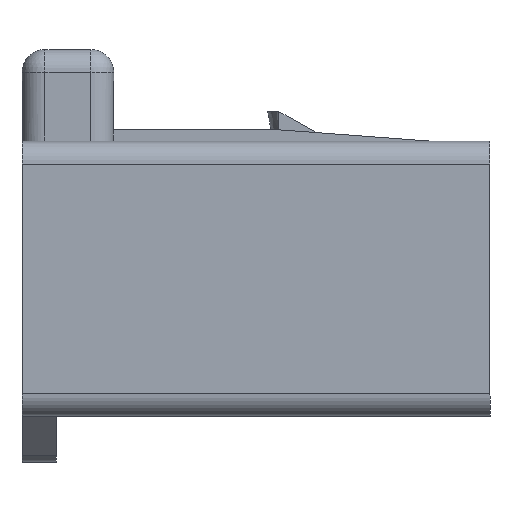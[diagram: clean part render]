
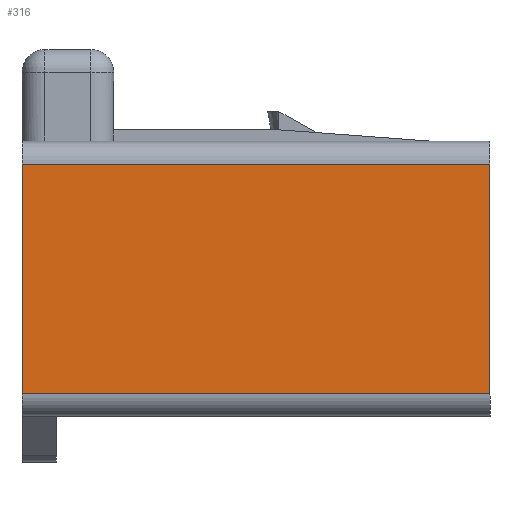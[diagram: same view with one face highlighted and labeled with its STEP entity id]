
A CAD part, front view. The second image highlights one B-rep face of the part: STEP entity #316.
In plain terms, the highlighted planar face has unit normal (0, -1, 0).
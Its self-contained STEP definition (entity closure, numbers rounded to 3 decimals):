
#289=AXIS2_PLACEMENT_3D('Plane Axis2P3D',#286,#287,#288) ;
#256=CARTESIAN_POINT('Vertex',(0.,-2.55,-8.2)) ;
#259=CARTESIAN_POINT('Line Origine',(-10.2,-2.55,-8.2)) ;
#263=CARTESIAN_POINT('Vertex',(-20.4,-2.55,-8.2)) ;
#286=CARTESIAN_POINT('Axis2P3D Location',(0.,-2.55,2.8)) ;
#291=CARTESIAN_POINT('Line Origine',(-20.4,-2.55,-3.2)) ;
#295=CARTESIAN_POINT('Vertex',(-20.4,-2.55,1.8)) ;
#298=CARTESIAN_POINT('Line Origine',(0.,-2.55,-3.2)) ;
#302=CARTESIAN_POINT('Vertex',(0.,-2.55,1.8)) ;
#305=CARTESIAN_POINT('Line Origine',(-10.2,-2.55,1.8)) ;
#260=DIRECTION('Vector Direction',(1.,0.,0.)) ;
#287=DIRECTION('Axis2P3D Direction',(0.,-1.,0.)) ;
#288=DIRECTION('Axis2P3D XDirection',(0.,0.,-1.)) ;
#292=DIRECTION('Vector Direction',(0.,0.,-1.)) ;
#299=DIRECTION('Vector Direction',(0.,0.,-1.)) ;
#306=DIRECTION('Vector Direction',(1.,0.,0.)) ;
#261=VECTOR('Line Direction',#260,1.) ;
#293=VECTOR('Line Direction',#292,1.) ;
#300=VECTOR('Line Direction',#299,1.) ;
#307=VECTOR('Line Direction',#306,1.) ;
#311=ORIENTED_EDGE('',*,*,#297,.T.) ;
#312=ORIENTED_EDGE('',*,*,#265,.T.) ;
#313=ORIENTED_EDGE('',*,*,#304,.F.) ;
#314=ORIENTED_EDGE('',*,*,#309,.F.) ;
#316=ADVANCED_FACE('\X2\FF8AFF9FFF70FF82\X0\ \X2\FF8EFF9EFF83FF9EFF68FF70\X0\',(#315),#290,.T.) ;
#265=EDGE_CURVE('',#264,#257,#262,.T.) ;
#297=EDGE_CURVE('',#296,#264,#294,.T.) ;
#304=EDGE_CURVE('',#303,#257,#301,.T.) ;
#309=EDGE_CURVE('',#296,#303,#308,.T.) ;
#310=EDGE_LOOP('',(#311,#312,#313,#314)) ;
#315=FACE_OUTER_BOUND('',#310,.T.) ;
#262=LINE('Line',#259,#261) ;
#294=LINE('Line',#291,#293) ;
#301=LINE('Line',#298,#300) ;
#308=LINE('Line',#305,#307) ;
#290=PLANE('',#289) ;
#257=VERTEX_POINT('',#256) ;
#264=VERTEX_POINT('',#263) ;
#296=VERTEX_POINT('',#295) ;
#303=VERTEX_POINT('',#302) ;
